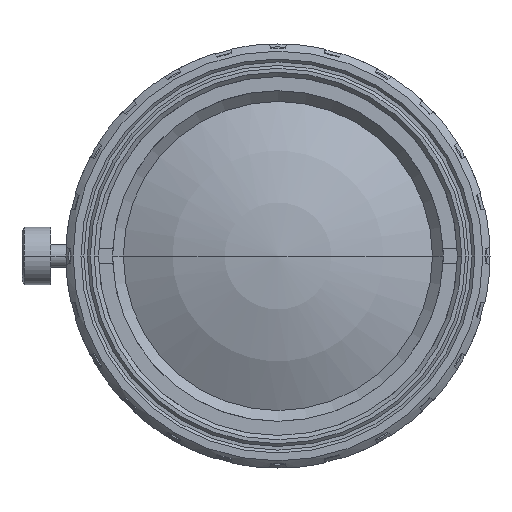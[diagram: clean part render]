
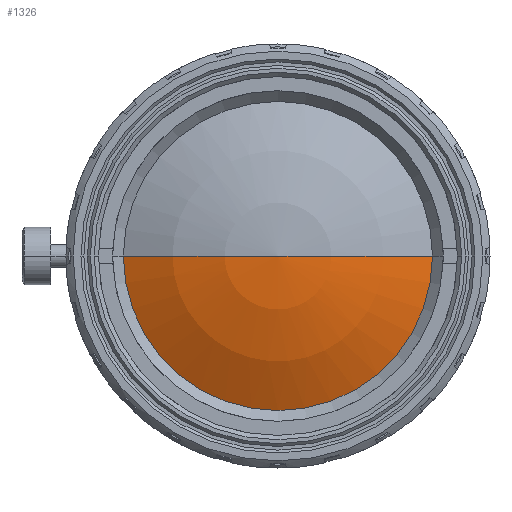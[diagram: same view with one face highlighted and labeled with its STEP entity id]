
A CAD part, left-side view. The second image highlights one B-rep face of the part: STEP entity #1326.
In plain terms, the highlighted spherical face has radius 22.736 mm.
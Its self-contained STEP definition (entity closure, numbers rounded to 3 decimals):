
#1233 = CYLINDRICAL_SURFACE('',#1234,10.75);
#1234 = AXIS2_PLACEMENT_3D('',#1235,#1236,#1237);
#1235 = CARTESIAN_POINT('',(-24.882,50.,0.));
#1236 = DIRECTION('',(1.,0.,0.));
#1237 = DIRECTION('',(0.,-1.,0.));
#1249 = VERTEX_POINT('',#1250);
#1250 = CARTESIAN_POINT('',(-24.782,39.25,0.));
#1278 = VERTEX_POINT('',#1279);
#1279 = CARTESIAN_POINT('',(-24.782,60.75,0.));
#1300 = EDGE_CURVE('',#1249,#1278,#1301,.T.);
#1301 = SURFACE_CURVE('',#1302,(#1307,#1314),.PCURVE_S1.);
#1302 = CIRCLE('',#1303,10.75);
#1303 = AXIS2_PLACEMENT_3D('',#1304,#1305,#1306);
#1304 = CARTESIAN_POINT('',(-24.782,50.,0.));
#1305 = DIRECTION('',(1.,0.,0.));
#1306 = DIRECTION('',(0.,1.,0.));
#1307 = PCURVE('',#1233,#1308);
#1308 = DEFINITIONAL_REPRESENTATION('',(#1309),#1313);
#1309 = LINE('',#1310,#1311);
#1310 = CARTESIAN_POINT('',(-3.142,0.1));
#1311 = VECTOR('',#1312,1.);
#1312 = DIRECTION('',(1.,0.));
#1313 = ( GEOMETRIC_REPRESENTATION_CONTEXT(2) 
PARAMETRIC_REPRESENTATION_CONTEXT() REPRESENTATION_CONTEXT('',''
  ) );
#1314 = PCURVE('',#1315,#1320);
#1315 = SPHERICAL_SURFACE('',#1316,22.736);
#1316 = AXIS2_PLACEMENT_3D('',#1317,#1318,#1319);
#1317 = CARTESIAN_POINT('',(-4.748,50.,0.));
#1318 = DIRECTION('',(1.,0.,0.));
#1319 = DIRECTION('',(0.,-1.,0.));
#1320 = DEFINITIONAL_REPRESENTATION('',(#1321),#1325);
#1321 = LINE('',#1322,#1323);
#1322 = CARTESIAN_POINT('',(-3.142,-1.078));
#1323 = VECTOR('',#1324,1.);
#1324 = DIRECTION('',(1.,0.));
#1325 = ( GEOMETRIC_REPRESENTATION_CONTEXT(2) 
PARAMETRIC_REPRESENTATION_CONTEXT() REPRESENTATION_CONTEXT('',''
  ) );
#1326 = ADVANCED_FACE('',(#1327),#1315,.T.);
#1327 = FACE_BOUND('',#1328,.T.);
#1328 = EDGE_LOOP('',(#1329,#1330,#1359));
#1329 = ORIENTED_EDGE('',*,*,#1300,.F.);
#1330 = ORIENTED_EDGE('',*,*,#1331,.T.);
#1331 = EDGE_CURVE('',#1249,#1332,#1334,.T.);
#1332 = VERTEX_POINT('',#1333);
#1333 = CARTESIAN_POINT('',(-27.484,50.,0.));
#1334 = SURFACE_CURVE('',#1335,(#1340,#1347),.PCURVE_S1.);
#1335 = CIRCLE('',#1336,22.736);
#1336 = AXIS2_PLACEMENT_3D('',#1337,#1338,#1339);
#1337 = CARTESIAN_POINT('',(-4.748,50.,0.));
#1338 = DIRECTION('',(0.,0.,-1.));
#1339 = DIRECTION('',(1.,0.,0.));
#1340 = PCURVE('',#1315,#1341);
#1341 = DEFINITIONAL_REPRESENTATION('',(#1342),#1346);
#1342 = LINE('',#1343,#1344);
#1343 = CARTESIAN_POINT('',(0.,1.571));
#1344 = VECTOR('',#1345,1.);
#1345 = DIRECTION('',(0.,-1.));
#1346 = ( GEOMETRIC_REPRESENTATION_CONTEXT(2) 
PARAMETRIC_REPRESENTATION_CONTEXT() REPRESENTATION_CONTEXT('',''
  ) );
#1347 = PCURVE('',#1348,#1353);
#1348 = SPHERICAL_SURFACE('',#1349,22.736);
#1349 = AXIS2_PLACEMENT_3D('',#1350,#1351,#1352);
#1350 = CARTESIAN_POINT('',(-4.748,50.,0.));
#1351 = DIRECTION('',(1.,0.,0.));
#1352 = DIRECTION('',(0.,-1.,0.));
#1353 = DEFINITIONAL_REPRESENTATION('',(#1354),#1358);
#1354 = LINE('',#1355,#1356);
#1355 = CARTESIAN_POINT('',(6.283,1.571));
#1356 = VECTOR('',#1357,1.);
#1357 = DIRECTION('',(0.,-1.));
#1358 = ( GEOMETRIC_REPRESENTATION_CONTEXT(2) 
PARAMETRIC_REPRESENTATION_CONTEXT() REPRESENTATION_CONTEXT('',''
  ) );
#1359 = ORIENTED_EDGE('',*,*,#1360,.T.);
#1360 = EDGE_CURVE('',#1332,#1278,#1361,.T.);
#1361 = SURFACE_CURVE('',#1362,(#1367,#1396),.PCURVE_S1.);
#1362 = CIRCLE('',#1363,22.736);
#1363 = AXIS2_PLACEMENT_3D('',#1364,#1365,#1366);
#1364 = CARTESIAN_POINT('',(-4.748,50.,0.));
#1365 = DIRECTION('',(0.,0.,-1.));
#1366 = DIRECTION('',(1.,0.,0.));
#1367 = PCURVE('',#1315,#1368);
#1368 = DEFINITIONAL_REPRESENTATION('',(#1369),#1395);
#1369 = B_SPLINE_CURVE_WITH_KNOTS('',3,(#1370,#1371,#1372,#1373,#1374,
    #1375,#1376,#1377,#1378,#1379,#1380,#1381,#1382,#1383,#1384,#1385,
    #1386,#1387,#1388,#1389,#1390,#1391,#1392,#1393,#1394),
  .UNSPECIFIED.,.F.,.F.,(4,1,1,1,1,1,1,1,1,1,1,1,1,1,1,1,1,1,1,1,1,1,4),
  (3.142,3.164,3.186,3.209,
    3.231,3.254,3.276,3.298,
    3.321,3.343,3.365,3.388,
    3.41,3.433,3.455,3.477,
    3.5,3.522,3.545,3.567,
    3.589,3.612,3.634),.QUASI_UNIFORM_KNOTS.);
#1370 = CARTESIAN_POINT('',(3.142,-1.571));
#1371 = CARTESIAN_POINT('',(3.142,-1.563));
#1372 = CARTESIAN_POINT('',(3.142,-1.548));
#1373 = CARTESIAN_POINT('',(3.142,-1.526));
#1374 = CARTESIAN_POINT('',(3.142,-1.504));
#1375 = CARTESIAN_POINT('',(3.142,-1.481));
#1376 = CARTESIAN_POINT('',(3.142,-1.459));
#1377 = CARTESIAN_POINT('',(3.142,-1.436));
#1378 = CARTESIAN_POINT('',(3.142,-1.414));
#1379 = CARTESIAN_POINT('',(3.142,-1.392));
#1380 = CARTESIAN_POINT('',(3.142,-1.369));
#1381 = CARTESIAN_POINT('',(3.142,-1.347));
#1382 = CARTESIAN_POINT('',(3.142,-1.325));
#1383 = CARTESIAN_POINT('',(3.142,-1.302));
#1384 = CARTESIAN_POINT('',(3.142,-1.28));
#1385 = CARTESIAN_POINT('',(3.142,-1.257));
#1386 = CARTESIAN_POINT('',(3.142,-1.235));
#1387 = CARTESIAN_POINT('',(3.142,-1.213));
#1388 = CARTESIAN_POINT('',(3.142,-1.19));
#1389 = CARTESIAN_POINT('',(3.142,-1.168));
#1390 = CARTESIAN_POINT('',(3.142,-1.145));
#1391 = CARTESIAN_POINT('',(3.142,-1.123));
#1392 = CARTESIAN_POINT('',(3.142,-1.101));
#1393 = CARTESIAN_POINT('',(3.142,-1.086));
#1394 = CARTESIAN_POINT('',(3.142,-1.078));
#1395 = ( GEOMETRIC_REPRESENTATION_CONTEXT(2) 
PARAMETRIC_REPRESENTATION_CONTEXT() REPRESENTATION_CONTEXT('',''
  ) );
#1396 = PCURVE('',#1348,#1397);
#1397 = DEFINITIONAL_REPRESENTATION('',(#1398),#1424);
#1398 = B_SPLINE_CURVE_WITH_KNOTS('',3,(#1399,#1400,#1401,#1402,#1403,
    #1404,#1405,#1406,#1407,#1408,#1409,#1410,#1411,#1412,#1413,#1414,
    #1415,#1416,#1417,#1418,#1419,#1420,#1421,#1422,#1423),
  .UNSPECIFIED.,.F.,.F.,(4,1,1,1,1,1,1,1,1,1,1,1,1,1,1,1,1,1,1,1,1,1,4),
  (3.142,3.164,3.186,3.209,
    3.231,3.254,3.276,3.298,
    3.321,3.343,3.365,3.388,
    3.41,3.433,3.455,3.477,
    3.5,3.522,3.545,3.567,
    3.589,3.612,3.634),.QUASI_UNIFORM_KNOTS.);
#1399 = CARTESIAN_POINT('',(3.142,-1.571));
#1400 = CARTESIAN_POINT('',(3.142,-1.563));
#1401 = CARTESIAN_POINT('',(3.142,-1.548));
#1402 = CARTESIAN_POINT('',(3.142,-1.526));
#1403 = CARTESIAN_POINT('',(3.142,-1.504));
#1404 = CARTESIAN_POINT('',(3.142,-1.481));
#1405 = CARTESIAN_POINT('',(3.142,-1.459));
#1406 = CARTESIAN_POINT('',(3.142,-1.436));
#1407 = CARTESIAN_POINT('',(3.142,-1.414));
#1408 = CARTESIAN_POINT('',(3.142,-1.392));
#1409 = CARTESIAN_POINT('',(3.142,-1.369));
#1410 = CARTESIAN_POINT('',(3.142,-1.347));
#1411 = CARTESIAN_POINT('',(3.142,-1.325));
#1412 = CARTESIAN_POINT('',(3.142,-1.302));
#1413 = CARTESIAN_POINT('',(3.142,-1.28));
#1414 = CARTESIAN_POINT('',(3.142,-1.257));
#1415 = CARTESIAN_POINT('',(3.142,-1.235));
#1416 = CARTESIAN_POINT('',(3.142,-1.213));
#1417 = CARTESIAN_POINT('',(3.142,-1.19));
#1418 = CARTESIAN_POINT('',(3.142,-1.168));
#1419 = CARTESIAN_POINT('',(3.142,-1.145));
#1420 = CARTESIAN_POINT('',(3.142,-1.123));
#1421 = CARTESIAN_POINT('',(3.142,-1.101));
#1422 = CARTESIAN_POINT('',(3.142,-1.086));
#1423 = CARTESIAN_POINT('',(3.142,-1.078));
#1424 = ( GEOMETRIC_REPRESENTATION_CONTEXT(2) 
PARAMETRIC_REPRESENTATION_CONTEXT() REPRESENTATION_CONTEXT('',''
  ) );
